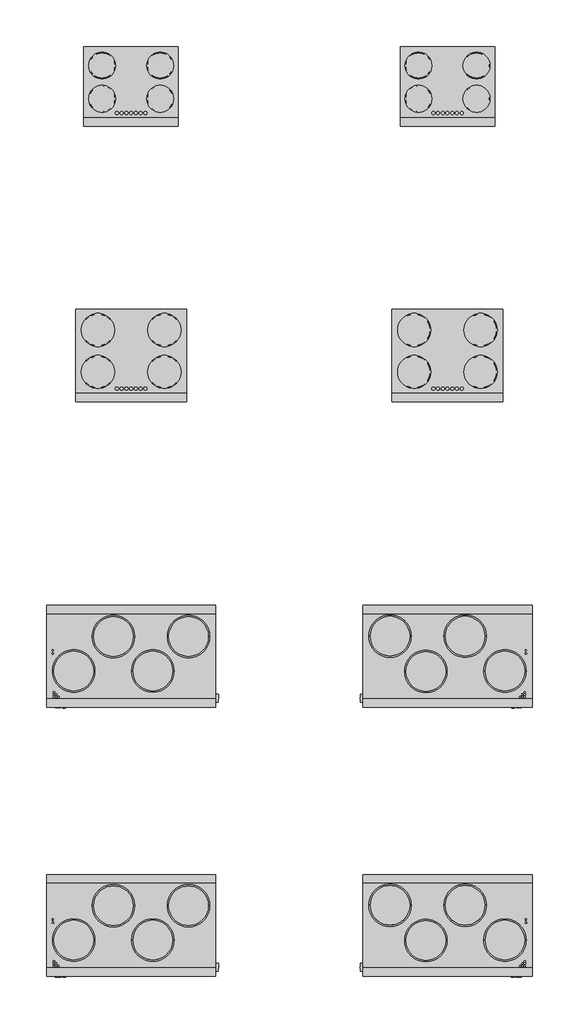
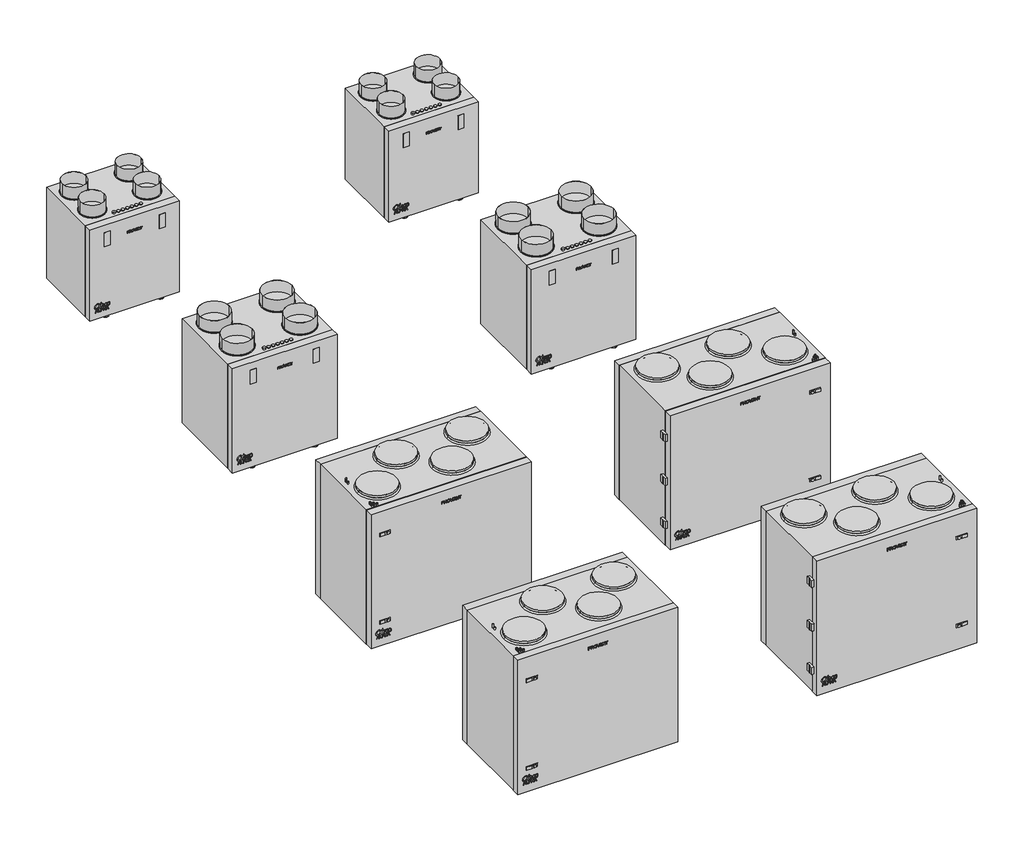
# One storey: 8 proxies.
"""IFC4 building model written with IfcOpenShell, lengths in millimetres."""

from ifc_helpers import new_model, si_unit, origin, place, context, project, spatial, transform, mapped, element, save
from components import mechanical_equipment_fdac61b0, mechanical_equipment_3e4f93d2, mechanical_equipment_2df97393, mechanical_equipment_6c99727b, mechanical_equipment_572f6157, mechanical_equipment_38894424, mechanical_equipment_19987ac5, mechanical_equipment_39a2e7f8

model = new_model("IFC4")

# Units and contexts
model_context = context("Model", 3, world=origin())
ifc_project = project(units=[si_unit("LENGTHUNIT", "METRE", prefix="MILLI")], contexts=[model_context])

# Site, building, storey
site = spatial("IfcSite", under=ifc_project)
building = spatial("IfcBuilding", under=site)
storey = spatial("IfcBuildingStorey", under=building, Name="Этаж 01", Elevation=0.0)

# Proxies
placement = place(None, origin())
mechanical_equipment_shape = mechanical_equipment_fdac61b0(model_context)
element("IfcBuildingElementProxy", 1, Name="PROVENT_Вертикальная приточно-вытяжная установка_ALPHA 900 V_R : Provent ALPHA 900 V (R)", ObjectType="PROVENT_Вертикальная приточно-вытяжная установка_ALPHA 900 V_R : Provent ALPHA 900 V (R)", at=placement, inside=storey, context=model_context, shape_type="MappedRepresentation", body=[
    mapped(mechanical_equipment_shape, transform((3108.8215867, 1200.0, 0.0), x_axis=(1.0, 0.0, 0.0), y_axis=(0.0, 1.0, 0.0), z_axis=(0.0, 0.0, 1.0))),
])
mechanical_equipment_2_shape = mechanical_equipment_3e4f93d2(model_context)
element("IfcBuildingElementProxy", 2, Name="PROVENT_Вертикальная приточно-вытяжная установка_ALPHA 400 V_L : Provent ALPHA 400 V (L)", ObjectType="PROVENT_Вертикальная приточно-вытяжная установка_ALPHA 400 V_L : Provent ALPHA 400 V (L)", at=placement, inside=storey, context=model_context, shape_type="MappedRepresentation", body=[
    mapped(mechanical_equipment_2_shape, transform((1108.8215867, 6500.0, 0.0), x_axis=(1.0, 0.0, 0.0), y_axis=(0.0, 1.0, 0.0), z_axis=(0.0, 0.0, 1.0))),
])
mechanical_equipment_3_shape = mechanical_equipment_2df97393(model_context)
element("IfcBuildingElementProxy", 3, Name="PROVENT_Вертикальная приточно-вытяжная установка_ALPHA 400 V_R : Provent ALPHA 400 V (R)", ObjectType="PROVENT_Вертикальная приточно-вытяжная установка_ALPHA 400 V_R : Provent ALPHA 400 V (R)", at=placement, inside=storey, context=model_context, shape_type="MappedRepresentation", body=[
    mapped(mechanical_equipment_3_shape, transform((3108.8215867, 6500.0, 0.0), x_axis=(1.0, 0.0, 0.0), y_axis=(0.0, 1.0, 0.0), z_axis=(0.0, 0.0, 1.0))),
])
mechanical_equipment_4_shape = mechanical_equipment_6c99727b(model_context)
element("IfcBuildingElementProxy", 4, Name="PROVENT_Вертикальная приточно-вытяжная установка_ALPHA 550 V_L : Provent ALPHA 550 V (L)", ObjectType="PROVENT_Вертикальная приточно-вытяжная установка_ALPHA 550 V_L : Provent ALPHA 550 V (L)", at=placement, inside=storey, context=model_context, shape_type="MappedRepresentation", body=[
    mapped(mechanical_equipment_4_shape, transform((1108.8215867, 4800.0, 0.0), x_axis=(1.0, 0.0, 0.0), y_axis=(0.0, 1.0, 0.0), z_axis=(0.0, 0.0, 1.0))),
])
mechanical_equipment_5_shape = mechanical_equipment_572f6157(model_context)
element("IfcBuildingElementProxy", 5, Name="PROVENT_Вертикальная приточно-вытяжная установка_ALPHA 550 V_R : Provent ALPHA 550 V (R)", ObjectType="PROVENT_Вертикальная приточно-вытяжная установка_ALPHA 550 V_R : Provent ALPHA 550 V (R)", at=placement, inside=storey, context=model_context, shape_type="MappedRepresentation", body=[
    mapped(mechanical_equipment_5_shape, transform((3108.8215867, 4800.0, 0.0), x_axis=(1.0, 0.0, 0.0), y_axis=(0.0, 1.0, 0.0), z_axis=(0.0, 0.0, 1.0))),
])
mechanical_equipment_6_shape = mechanical_equipment_38894424(model_context)
element("IfcBuildingElementProxy", 6, Name="PROVENT_Вертикальная приточно-вытяжная установка_ALPHA 700 V_L : Provent ALPHA 700 V (L)", ObjectType="PROVENT_Вертикальная приточно-вытяжная установка_ALPHA 700 V_L : Provent ALPHA 700 V (L)", at=placement, inside=storey, context=model_context, shape_type="MappedRepresentation", body=[
    mapped(mechanical_equipment_6_shape, transform((1108.8215867, 2900.0, 0.0), x_axis=(1.0, 0.0, 0.0), y_axis=(0.0, 1.0, 0.0), z_axis=(0.0, 0.0, 1.0))),
])
mechanical_equipment_7_shape = mechanical_equipment_19987ac5(model_context)
element("IfcBuildingElementProxy", 7, Name="PROVENT_Вертикальная приточно-вытяжная установка_ALPHA 700 V_R : Provent ALPHA 700 V (R)", ObjectType="PROVENT_Вертикальная приточно-вытяжная установка_ALPHA 700 V_R : Provent ALPHA 700 V (R)", at=placement, inside=storey, context=model_context, shape_type="MappedRepresentation", body=[
    mapped(mechanical_equipment_7_shape, transform((3108.8215867, 2900.0, 0.0), x_axis=(1.0, 0.0, 0.0), y_axis=(0.0, 1.0, 0.0), z_axis=(0.0, 0.0, 1.0))),
])
mechanical_equipment_8_shape = mechanical_equipment_39a2e7f8(model_context)
element("IfcBuildingElementProxy", 8, Name="PROVENT_Вертикальная приточно-вытяжная установка_ALPHA 900 V_L : Provent ALPHA 900 V (L)", ObjectType="PROVENT_Вертикальная приточно-вытяжная установка_ALPHA 900 V_L : Provent ALPHA 900 V (L)", at=placement, inside=storey, context=model_context, shape_type="MappedRepresentation", body=[
    mapped(mechanical_equipment_8_shape, transform((1108.8215867, 1200.0, 0.0), x_axis=(1.0, 0.0, 0.0), y_axis=(0.0, 1.0, 0.0), z_axis=(0.0, 0.0, 1.0))),
])

save(model, "model.ifc")
